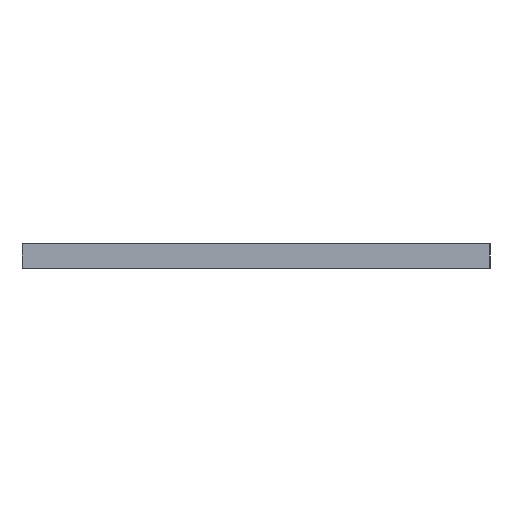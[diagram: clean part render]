
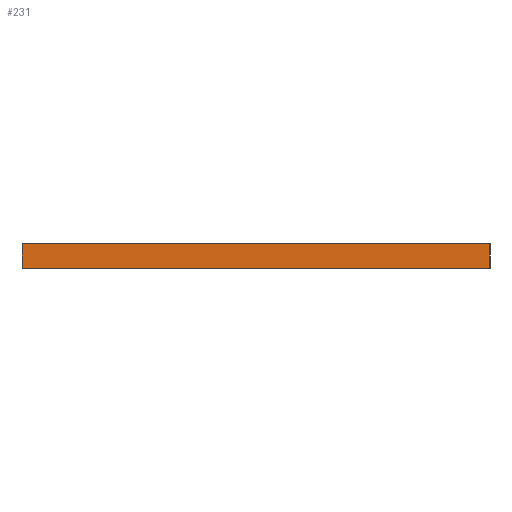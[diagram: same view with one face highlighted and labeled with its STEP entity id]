
A CAD part, left-side view. The second image highlights one B-rep face of the part: STEP entity #231.
In plain terms, the highlighted planar face has unit normal (-1, 0, 0).
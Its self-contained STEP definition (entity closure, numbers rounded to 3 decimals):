
#50 = PLANE('',#51);
#51 = AXIS2_PLACEMENT_3D('',#52,#53,#54);
#52 = CARTESIAN_POINT('',(40.,-30.,0.));
#53 = DIRECTION('',(0.,-1.,0.));
#54 = DIRECTION('',(-1.,0.,0.));
#75 = VERTEX_POINT('',#76);
#76 = CARTESIAN_POINT('',(0.,-30.,1.6));
#90 = PLANE('',#91);
#91 = AXIS2_PLACEMENT_3D('',#92,#93,#94);
#92 = CARTESIAN_POINT('',(20.,-15.,1.6));
#93 = DIRECTION('',(-0.,-0.,-1.));
#94 = DIRECTION('',(-1.,0.,0.));
#102 = EDGE_CURVE('',#103,#75,#105,.T.);
#103 = VERTEX_POINT('',#104);
#104 = CARTESIAN_POINT('',(0.,-30.,0.));
#105 = SURFACE_CURVE('',#106,(#110,#117),.PCURVE_S1.);
#106 = LINE('',#107,#108);
#107 = CARTESIAN_POINT('',(0.,-30.,0.));
#108 = VECTOR('',#109,1.);
#109 = DIRECTION('',(0.,0.,1.));
#110 = PCURVE('',#50,#111);
#111 = DEFINITIONAL_REPRESENTATION('',(#112),#116);
#112 = LINE('',#113,#114);
#113 = CARTESIAN_POINT('',(40.,0.));
#114 = VECTOR('',#115,1.);
#115 = DIRECTION('',(0.,-1.));
#116 = ( GEOMETRIC_REPRESENTATION_CONTEXT(2) 
PARAMETRIC_REPRESENTATION_CONTEXT() REPRESENTATION_CONTEXT('2D SPACE',''
  ) );
#117 = PCURVE('',#118,#123);
#118 = PLANE('',#119);
#119 = AXIS2_PLACEMENT_3D('',#120,#121,#122);
#120 = CARTESIAN_POINT('',(0.,-30.,0.));
#121 = DIRECTION('',(-1.,0.,0.));
#122 = DIRECTION('',(0.,1.,0.));
#123 = DEFINITIONAL_REPRESENTATION('',(#124),#128);
#124 = LINE('',#125,#126);
#125 = CARTESIAN_POINT('',(0.,0.));
#126 = VECTOR('',#127,1.);
#127 = DIRECTION('',(0.,-1.));
#128 = ( GEOMETRIC_REPRESENTATION_CONTEXT(2) 
PARAMETRIC_REPRESENTATION_CONTEXT() REPRESENTATION_CONTEXT('2D SPACE',''
  ) );
#144 = PLANE('',#145);
#145 = AXIS2_PLACEMENT_3D('',#146,#147,#148);
#146 = CARTESIAN_POINT('',(20.,-15.,0.));
#147 = DIRECTION('',(-0.,-0.,-1.));
#148 = DIRECTION('',(-1.,0.,0.));
#177 = PLANE('',#178);
#178 = AXIS2_PLACEMENT_3D('',#179,#180,#181);
#179 = CARTESIAN_POINT('',(0.,0.,0.));
#180 = DIRECTION('',(0.,1.,0.));
#181 = DIRECTION('',(1.,0.,0.));
#231 = ADVANCED_FACE('',(#232),#118,.T.);
#232 = FACE_BOUND('',#233,.T.);
#233 = EDGE_LOOP('',(#234,#235,#258,#281));
#234 = ORIENTED_EDGE('',*,*,#102,.T.);
#235 = ORIENTED_EDGE('',*,*,#236,.T.);
#236 = EDGE_CURVE('',#75,#237,#239,.T.);
#237 = VERTEX_POINT('',#238);
#238 = CARTESIAN_POINT('',(0.,0.,1.6));
#239 = SURFACE_CURVE('',#240,(#244,#251),.PCURVE_S1.);
#240 = LINE('',#241,#242);
#241 = CARTESIAN_POINT('',(0.,-30.,1.6));
#242 = VECTOR('',#243,1.);
#243 = DIRECTION('',(0.,1.,0.));
#244 = PCURVE('',#118,#245);
#245 = DEFINITIONAL_REPRESENTATION('',(#246),#250);
#246 = LINE('',#247,#248);
#247 = CARTESIAN_POINT('',(0.,-1.6));
#248 = VECTOR('',#249,1.);
#249 = DIRECTION('',(1.,0.));
#250 = ( GEOMETRIC_REPRESENTATION_CONTEXT(2) 
PARAMETRIC_REPRESENTATION_CONTEXT() REPRESENTATION_CONTEXT('2D SPACE',''
  ) );
#251 = PCURVE('',#90,#252);
#252 = DEFINITIONAL_REPRESENTATION('',(#253),#257);
#253 = LINE('',#254,#255);
#254 = CARTESIAN_POINT('',(20.,-15.));
#255 = VECTOR('',#256,1.);
#256 = DIRECTION('',(0.,1.));
#257 = ( GEOMETRIC_REPRESENTATION_CONTEXT(2) 
PARAMETRIC_REPRESENTATION_CONTEXT() REPRESENTATION_CONTEXT('2D SPACE',''
  ) );
#258 = ORIENTED_EDGE('',*,*,#259,.F.);
#259 = EDGE_CURVE('',#260,#237,#262,.T.);
#260 = VERTEX_POINT('',#261);
#261 = CARTESIAN_POINT('',(0.,-0.,0.));
#262 = SURFACE_CURVE('',#263,(#267,#274),.PCURVE_S1.);
#263 = LINE('',#264,#265);
#264 = CARTESIAN_POINT('',(0.,-0.,0.));
#265 = VECTOR('',#266,1.);
#266 = DIRECTION('',(0.,0.,1.));
#267 = PCURVE('',#118,#268);
#268 = DEFINITIONAL_REPRESENTATION('',(#269),#273);
#269 = LINE('',#270,#271);
#270 = CARTESIAN_POINT('',(30.,0.));
#271 = VECTOR('',#272,1.);
#272 = DIRECTION('',(0.,-1.));
#273 = ( GEOMETRIC_REPRESENTATION_CONTEXT(2) 
PARAMETRIC_REPRESENTATION_CONTEXT() REPRESENTATION_CONTEXT('2D SPACE',''
  ) );
#274 = PCURVE('',#177,#275);
#275 = DEFINITIONAL_REPRESENTATION('',(#276),#280);
#276 = LINE('',#277,#278);
#277 = CARTESIAN_POINT('',(0.,0.));
#278 = VECTOR('',#279,1.);
#279 = DIRECTION('',(0.,-1.));
#280 = ( GEOMETRIC_REPRESENTATION_CONTEXT(2) 
PARAMETRIC_REPRESENTATION_CONTEXT() REPRESENTATION_CONTEXT('2D SPACE',''
  ) );
#281 = ORIENTED_EDGE('',*,*,#282,.F.);
#282 = EDGE_CURVE('',#103,#260,#283,.T.);
#283 = SURFACE_CURVE('',#284,(#288,#295),.PCURVE_S1.);
#284 = LINE('',#285,#286);
#285 = CARTESIAN_POINT('',(0.,-30.,0.));
#286 = VECTOR('',#287,1.);
#287 = DIRECTION('',(0.,1.,0.));
#288 = PCURVE('',#118,#289);
#289 = DEFINITIONAL_REPRESENTATION('',(#290),#294);
#290 = LINE('',#291,#292);
#291 = CARTESIAN_POINT('',(0.,0.));
#292 = VECTOR('',#293,1.);
#293 = DIRECTION('',(1.,0.));
#294 = ( GEOMETRIC_REPRESENTATION_CONTEXT(2) 
PARAMETRIC_REPRESENTATION_CONTEXT() REPRESENTATION_CONTEXT('2D SPACE',''
  ) );
#295 = PCURVE('',#144,#296);
#296 = DEFINITIONAL_REPRESENTATION('',(#297),#301);
#297 = LINE('',#298,#299);
#298 = CARTESIAN_POINT('',(20.,-15.));
#299 = VECTOR('',#300,1.);
#300 = DIRECTION('',(0.,1.));
#301 = ( GEOMETRIC_REPRESENTATION_CONTEXT(2) 
PARAMETRIC_REPRESENTATION_CONTEXT() REPRESENTATION_CONTEXT('2D SPACE',''
  ) );
